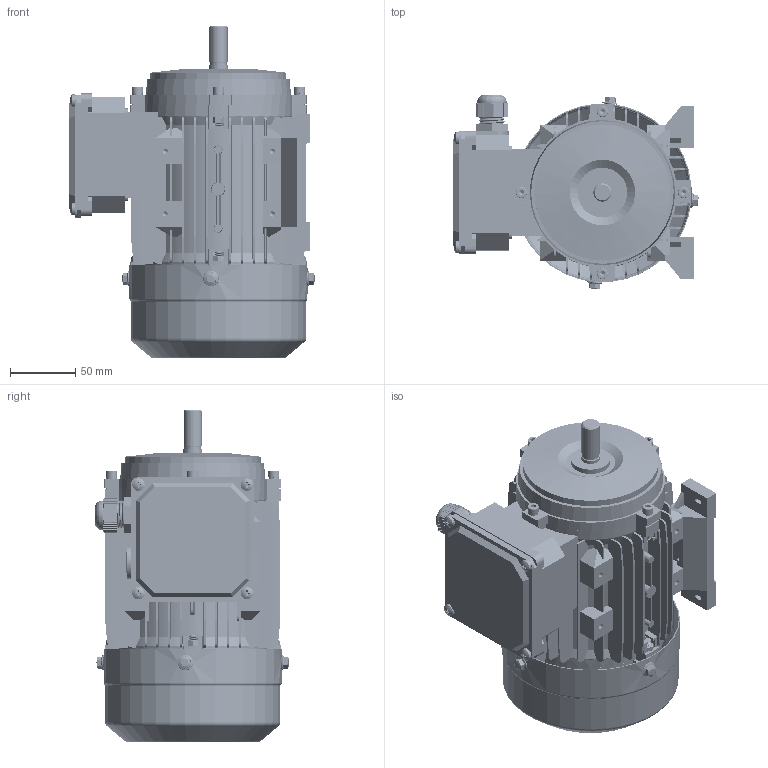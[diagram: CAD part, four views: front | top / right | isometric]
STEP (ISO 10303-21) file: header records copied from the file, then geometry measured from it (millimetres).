
FILE_DESCRIPTION (( 'STEP AP203' ), '1' );
FILE_NAME ('MS71L B3 3D蚾饜芞.STEP', '2024-06-01T08:45:58', ( 'User' ), ( 'China' ), 'SwSTEP 2.0', 'SolidWorks 2018', '' );
FILE_SCHEMA (( 'CONFIG_CONTROL_DESIGN' ));
Length unit declared in the file: millimetre
Products named in the file (20): hex flange bolts-heavy grade b gb_GB_FASTENER_BOLT_HFBB M5X10-C; 黑芛20X1.5; 8.034.07101MS71 L儂褲; MS63-71諉盄碟裔; 蚐猾25X14X4; 8.013.07102MS71綴傷裔; MS63-71諉盄碟菁釱; hexagon socket head cap screws gb_GB_FASTENER_SCREWS_HSHCS M5X25-S; 8.200.07101MS71 L蛌粣; MS71L  B3  3D蚾饜芞; spring lock washers--normal type gb_GB_FASTENER_WASHER_SW 5; 8.014.07101MS71B3傷裔; hex nuts, style 1-grades ab gb_GB_FASTENER_NUT_SNAB1 M5-S; 8.043.07101MS71菁褐; hexagon socket head cap screws gb_GB_FASTENER_SCREWS_HSHCS M6X20-S; cross recessed pan head screws gb_GB_CROSS_SCREWS_TYPE1 M5X8-8  H type-C; spring lock washers--normal type gb_GB_FASTENER_WASHER_SW 6; 蹟杶郋M20X1.5; 8.306.07101MS71邧脯瑞欶; 蹟簸M20X1.5
Assembly tree (52 placements, depth 2):
  MS71L  B3  3D蚾饜芞
    8.034.07101MS71 L儂褲
    8.013.07102MS71綴傷裔
    8.200.07101MS71 L蛌粣
    8.014.07101MS71B3傷裔
    8.043.07101MS71菁褐  x2
    cross recessed pan head screws gb_GB_CROSS_SCREWS_TYPE1 M5X8-8  H type-C  x8
    蹟杶郋M20X1.5
    蹟簸M20X1.5
    黑芛20X1.5
    蚐猾25X14X4
    hexagon socket head cap screws gb_GB_FASTENER_SCREWS_HSHCS M5X25-S  x8
    spring lock washers--normal type gb_GB_FASTENER_WASHER_SW 5  x4
    hex nuts, style 1-grades ab gb_GB_FASTENER_NUT_SNAB1 M5-S  x7
    hexagon socket head cap screws gb_GB_FASTENER_SCREWS_HSHCS M6X20-S  x4
    spring lock washers--normal type gb_GB_FASTENER_WASHER_SW 6  x4
    8.306.07101MS71邧脯瑞欶
    hex flange bolts-heavy grade b gb_GB_FASTENER_BOLT_HFBB M5X10-C  x4
    MS63-71諉盄碟裔
    MS63-71諉盄碟菁釱
Bounding box: 187.6 x 148.35 x 253.83 mm (x, y, z)
Volume: 663021.8 mm3; surface area: 493773.9 mm2
Topology: 52 solids, 65 shells, 7091 faces, 16783 edges, 9892 vertices
Faces by surface type: cone 2605, plane 2337, cylinder 1879, bspline 170, torus 84, sphere 16
Entity records: 129474 total; most frequent: CARTESIAN_POINT 42117, ORIENTED_EDGE 18458, DIRECTION 16285, EDGE_CURVE 9229, VERTEX_POINT 5918, LINE 5507, VECTOR 5507, AXIS2_PLACEMENT_3D 5389
